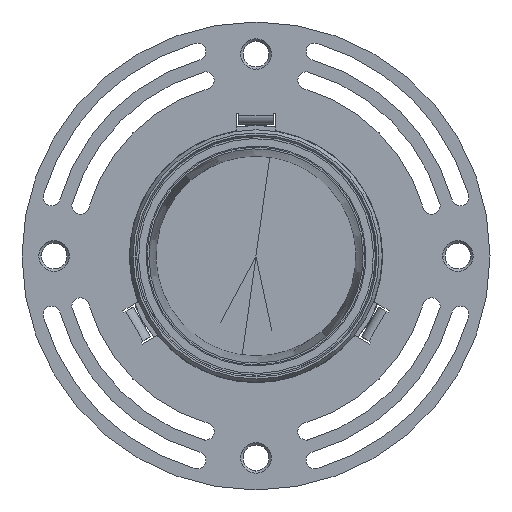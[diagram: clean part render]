
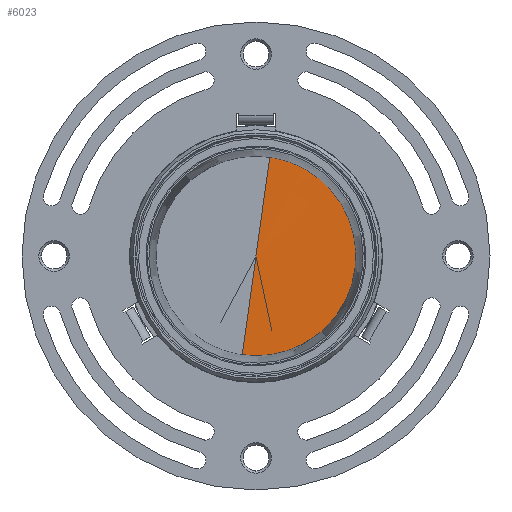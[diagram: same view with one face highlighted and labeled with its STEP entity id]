
A CAD part, front view. The second image highlights one B-rep face of the part: STEP entity #6023.
In plain terms, the highlighted conical face has half-angle 89.86 degrees and reference radius 26.5 mm.
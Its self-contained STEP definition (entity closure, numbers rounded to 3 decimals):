
#179 = ORIENTED_EDGE ( 'NONE', *, *, #9432, .F. ) ;
#189 = CARTESIAN_POINT ( 'NONE',  ( -26.5, 22.765, 0. ) ) ;
#275 = EDGE_CURVE ( 'NONE', #6341, #784, #11447, .T. ) ;
#784 = VERTEX_POINT ( 'NONE', #4416 ) ;
#849 = ORIENTED_EDGE ( 'NONE', *, *, #10872, .F. ) ;
#2045 = VECTOR ( 'NONE', #6765, 1000. ) ;
#3243 = DIRECTION ( 'NONE',  ( 0., 1., 0. ) ) ;
#3718 = LINE ( 'NONE', #6743, #5333 ) ;
#4204 = EDGE_LOOP ( 'NONE', ( #849, #10495, #179 ) ) ;
#4416 = CARTESIAN_POINT ( 'NONE',  ( 26.5, 22.765, 0. ) ) ;
#5291 = AXIS2_PLACEMENT_3D ( 'NONE', #10776, #3243, #9693 ) ;
#5333 = VECTOR ( 'NONE', #8522, 1000. ) ;
#5632 = CARTESIAN_POINT ( 'NONE',  ( 26.5, 22.765, 0. ) ) ;
#5683 = CIRCLE ( 'NONE', #5291, 26.5 ) ;
#6023 = ADVANCED_FACE ( 'NONE', ( #9922 ), #10837, .T. ) ;
#6269 = CARTESIAN_POINT ( 'NONE',  ( 0., 22.765, 0. ) ) ;
#6341 = VERTEX_POINT ( 'NONE', #9545 ) ;
#6743 = CARTESIAN_POINT ( 'NONE',  ( -26.5, 22.765, 0. ) ) ;
#6765 = DIRECTION ( 'NONE',  ( 1., 0.002, 0. ) ) ;
#6950 = VERTEX_POINT ( 'NONE', #189 ) ;
#8522 = DIRECTION ( 'NONE',  ( -1., 0.002, 0. ) ) ;
#9101 = AXIS2_PLACEMENT_3D ( 'NONE', #6269, #11859, #9801 ) ;
#9432 = EDGE_CURVE ( 'NONE', #6950, #784, #5683, .T. ) ;
#9545 = CARTESIAN_POINT ( 'NONE',  ( 0., 22.7, 0. ) ) ;
#9693 = DIRECTION ( 'NONE',  ( -1., 0., 0. ) ) ;
#9801 = DIRECTION ( 'NONE',  ( -1., 0., 0. ) ) ;
#9922 = FACE_OUTER_BOUND ( 'NONE', #4204, .T. ) ;
#10495 = ORIENTED_EDGE ( 'NONE', *, *, #275, .T. ) ;
#10776 = CARTESIAN_POINT ( 'NONE',  ( 0., 22.765, 0. ) ) ;
#10837 = CONICAL_SURFACE ( 'NONE', #9101, 26.5, 1.568 ) ;
#10872 = EDGE_CURVE ( 'NONE', #6341, #6950, #3718, .T. ) ;
#11447 = LINE ( 'NONE', #5632, #2045 ) ;
#11859 = DIRECTION ( 'NONE',  ( 0., 1., 0. ) ) ;
